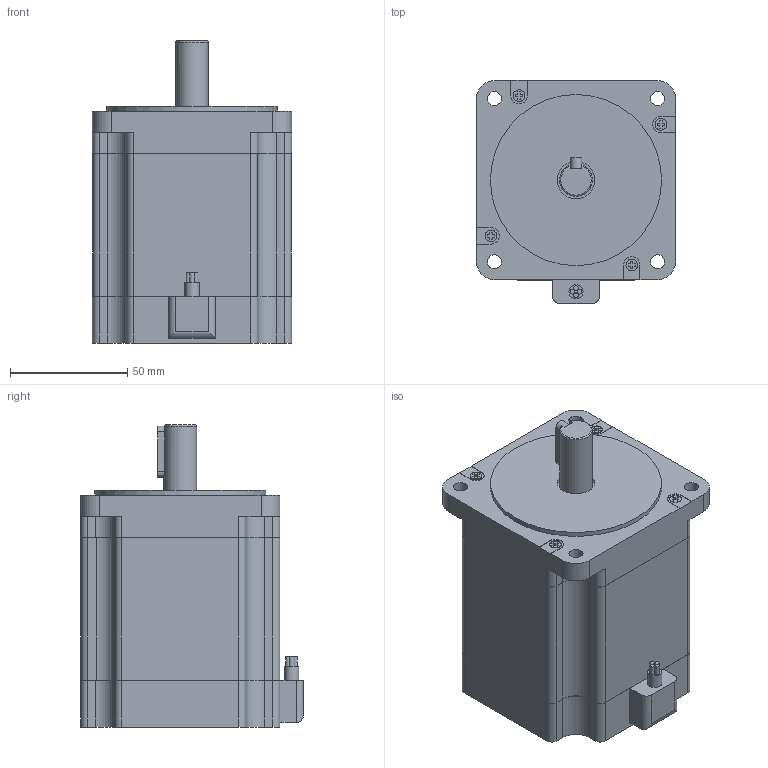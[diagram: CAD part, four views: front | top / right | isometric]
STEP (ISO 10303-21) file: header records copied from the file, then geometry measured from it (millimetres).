
FILE_DESCRIPTION(/* description */ (''),/* implementation_level */ '2;1');
FILE_NAME(/* name */ 'STC-86E21-0399.stp',/* time_stamp */ '2018-08-17T09:13:56+08:00',/* author */ (''),/* organization */ (''),/* preprocessor_version */ 'ST-DEVELOPER v11',/* originating_system */ 'SIEMENS UGS NX 6.0',/* authorisation */ '');
FILE_SCHEMA (('CONFIG_CONTROL_DESIGN'));
Length unit declared in the file: millimetre
Products named in the file (1): STC-86E21-0399
Bounding box: 85 x 95 x 129 mm (x, y, z)
Volume: 523.2 mm3; surface area: 49840.1 mm2
Topology: 1 solids, 2 shells, 201 faces, 542 edges, 363 vertices
Faces by surface type: plane 133, cylinder 67, torus 1
Full cylindrical faces by diameter (mm): 2 x4, 5 x4, 6 x5, 14 x2, 16 x1, 73.025 x1
Entity records: 6286 total; most frequent: CARTESIAN_POINT 1135, DIRECTION 1046, ORIENTED_EDGE 1028, EDGE_CURVE 514, LINE 378, VECTOR 378, VERTEX_POINT 353, AXIS2_PLACEMENT_3D 334
